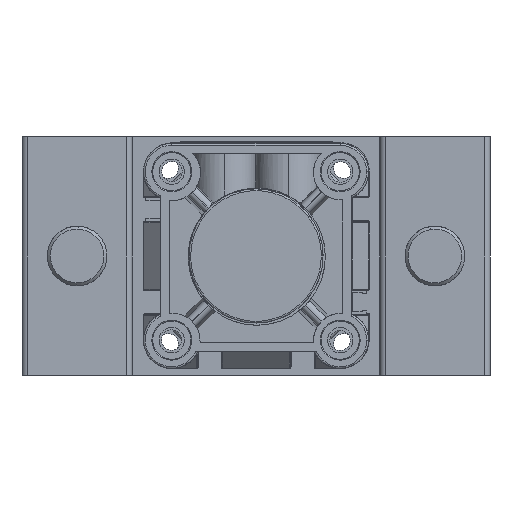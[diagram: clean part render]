
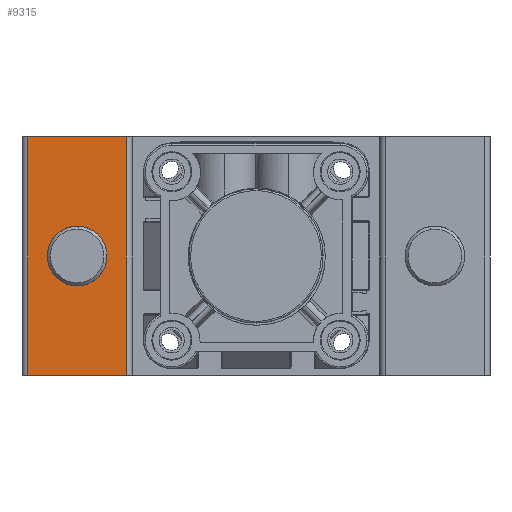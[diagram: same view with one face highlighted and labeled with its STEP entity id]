
A CAD part, front view. The second image highlights one B-rep face of the part: STEP entity #9315.
In plain terms, the highlighted planar face has unit normal (0, -1, 0).
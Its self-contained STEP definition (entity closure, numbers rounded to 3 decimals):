
#492 = VERTEX_POINT ( 'NONE', #12017 ) ;
#1315 = DIRECTION ( 'NONE',  ( 0., -1., 0. ) ) ;
#2088 = ORIENTED_EDGE ( 'NONE', *, *, #17519, .F. ) ;
#2606 = LINE ( 'NONE', #35579, #4577 ) ;
#2613 = ORIENTED_EDGE ( 'NONE', *, *, #19089, .T. ) ;
#4577 = VECTOR ( 'NONE', #32548, 1000. ) ;
#4875 = FACE_OUTER_BOUND ( 'NONE', #18209, .T. ) ;
#5295 = CARTESIAN_POINT ( 'NONE',  ( 2., -167., 80. ) ) ;
#5835 = FACE_BOUND ( 'NONE', #7662, .T. ) ;
#5914 = DIRECTION ( 'NONE',  ( -1., 0., 0. ) ) ;
#6796 = CARTESIAN_POINT ( 'NONE',  ( 35., -167., 80. ) ) ;
#6843 = VECTOR ( 'NONE', #27317, 1000. ) ;
#7606 = CARTESIAN_POINT ( 'NONE',  ( 35., -167., 0. ) ) ;
#7662 = EDGE_LOOP ( 'NONE', ( #2088, #14636 ) ) ;
#7808 = LINE ( 'NONE', #24352, #23579 ) ;
#9198 = EDGE_CURVE ( 'NONE', #24620, #29377, #7808, .T. ) ;
#9315 = ADVANCED_FACE ( 'NONE', ( #5835, #4875 ), #21590, .F. ) ;
#12017 = CARTESIAN_POINT ( 'NONE',  ( 35., -167., 0. ) ) ;
#13618 = ORIENTED_EDGE ( 'NONE', *, *, #14702, .F. ) ;
#13934 = DIRECTION ( 'NONE',  ( 1., 0., 0. ) ) ;
#14636 = ORIENTED_EDGE ( 'NONE', *, *, #28295, .F. ) ;
#14702 = EDGE_CURVE ( 'NONE', #29377, #492, #2606, .T. ) ;
#15201 = LINE ( 'NONE', #5295, #6843 ) ;
#15269 = VERTEX_POINT ( 'NONE', #18838 ) ;
#15511 = CARTESIAN_POINT ( 'NONE',  ( 18.5, -167., 40. ) ) ;
#16531 = CIRCLE ( 'NONE', #24072, 10. ) ;
#17303 = ORIENTED_EDGE ( 'NONE', *, *, #24284, .T. ) ;
#17484 = AXIS2_PLACEMENT_3D ( 'NONE', #15511, #37537, #18663 ) ;
#17519 = EDGE_CURVE ( 'NONE', #33146, #15269, #16531, .T. ) ;
#17585 = CIRCLE ( 'NONE', #17484, 10. ) ;
#18209 = EDGE_LOOP ( 'NONE', ( #2613, #13618, #26592, #17303 ) ) ;
#18663 = DIRECTION ( 'NONE',  ( 0., 0., -1. ) ) ;
#18838 = CARTESIAN_POINT ( 'NONE',  ( 18.5, -167., 50. ) ) ;
#19089 = EDGE_CURVE ( 'NONE', #35828, #492, #40064, .T. ) ;
#20034 = CARTESIAN_POINT ( 'NONE',  ( 18.5, -167., 30. ) ) ;
#20089 = CARTESIAN_POINT ( 'NONE',  ( 18.5, -167., 40. ) ) ;
#21590 = PLANE ( 'NONE',  #29182 ) ;
#23290 = DIRECTION ( 'NONE',  ( 0., 0., -1. ) ) ;
#23579 = VECTOR ( 'NONE', #27542, 1000. ) ;
#24072 = AXIS2_PLACEMENT_3D ( 'NONE', #20089, #1315, #23290 ) ;
#24284 = EDGE_CURVE ( 'NONE', #24620, #35828, #15201, .T. ) ;
#24352 = CARTESIAN_POINT ( 'NONE',  ( 35., -167., 80. ) ) ;
#24620 = VERTEX_POINT ( 'NONE', #39104 ) ;
#24756 = DIRECTION ( 'NONE',  ( 0., 1., 0. ) ) ;
#26592 = ORIENTED_EDGE ( 'NONE', *, *, #9198, .F. ) ;
#27317 = DIRECTION ( 'NONE',  ( 0., 0., -1. ) ) ;
#27542 = DIRECTION ( 'NONE',  ( 1., 0., 0. ) ) ;
#28295 = EDGE_CURVE ( 'NONE', #15269, #33146, #17585, .T. ) ;
#29182 = AXIS2_PLACEMENT_3D ( 'NONE', #30948, #24756, #5914 ) ;
#29377 = VERTEX_POINT ( 'NONE', #6796 ) ;
#30948 = CARTESIAN_POINT ( 'NONE',  ( 35., -167., 80. ) ) ;
#31349 = CARTESIAN_POINT ( 'NONE',  ( 2., -167., 0. ) ) ;
#32548 = DIRECTION ( 'NONE',  ( 0., 0., -1. ) ) ;
#33146 = VERTEX_POINT ( 'NONE', #20034 ) ;
#35579 = CARTESIAN_POINT ( 'NONE',  ( 35., -167., 80. ) ) ;
#35828 = VERTEX_POINT ( 'NONE', #31349 ) ;
#37537 = DIRECTION ( 'NONE',  ( 0., -1., 0. ) ) ;
#39080 = VECTOR ( 'NONE', #13934, 1000. ) ;
#39104 = CARTESIAN_POINT ( 'NONE',  ( 2., -167., 80. ) ) ;
#40064 = LINE ( 'NONE', #7606, #39080 ) ;
